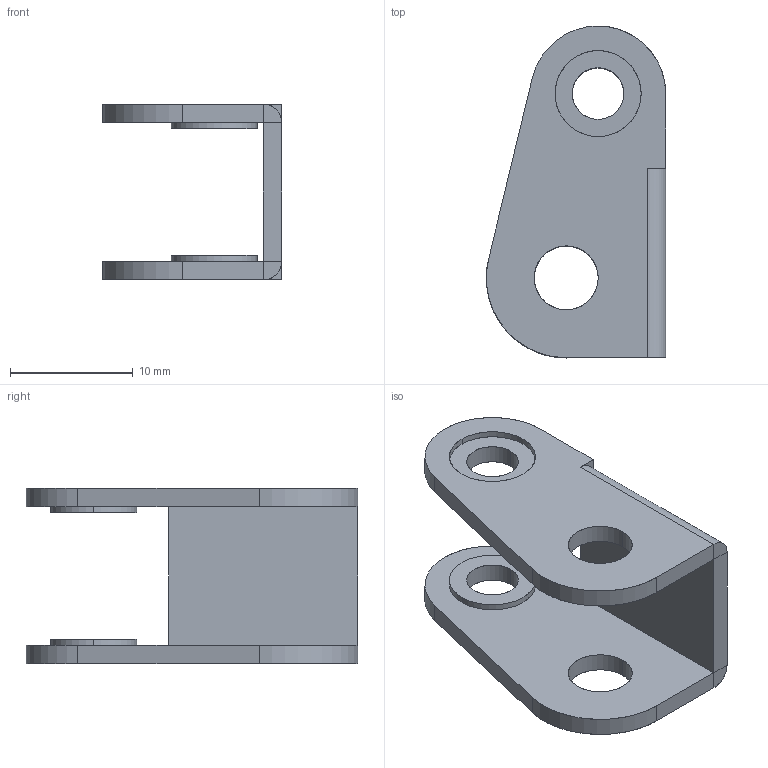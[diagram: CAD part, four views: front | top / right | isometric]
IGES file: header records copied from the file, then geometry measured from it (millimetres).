
Start section: SolidWorks IGES FILE using analytic representation for surfaces
Global section: file name: C:\Documents and Settings\lecoutey\Bureau\GR\58.060.10.IGS; native system: SolidWorks 2004 by SolidWorks Corporation; preprocessor: Version 5.3; author: lecoutey; date: 050404.180249; units: millimetre
Bounding box: 14.6 x 27 x 14.3 mm (x, y, z)
Surface area: 1837.3 mm2 (no closed solid volume)
Topology: 0 solids, 0 shells, 46 faces, 804 edges, 804 vertices
Faces by surface type: revolution 24, bspline 22
